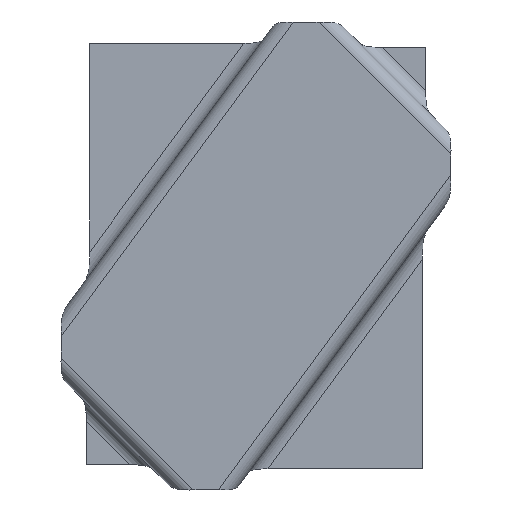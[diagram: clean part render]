
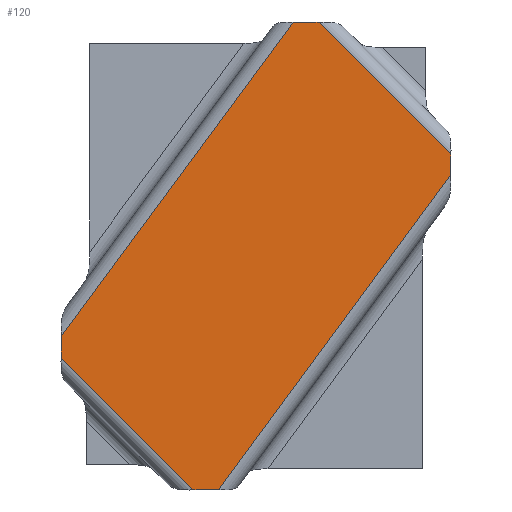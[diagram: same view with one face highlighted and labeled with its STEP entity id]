
A CAD part, top view. The second image highlights one B-rep face of the part: STEP entity #120.
In plain terms, the highlighted planar face has unit normal (0, 0, -1).
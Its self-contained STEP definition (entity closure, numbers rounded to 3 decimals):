
#53=CARTESIAN_POINT('Axis2P3D Location',(-51.842,38.23,64.914)) ;
#59=CARTESIAN_POINT('Control Point',(-51.842,77.498,64.914)) ;
#60=CARTESIAN_POINT('Control Point',(7.694,158.23,64.914)) ;
#61=CARTESIAN_POINT('Vertex',(-51.842,77.498,64.914)) ;
#63=CARTESIAN_POINT('Vertex',(7.694,158.23,64.914)) ;
#66=CARTESIAN_POINT('Line Origine',(-1.842,158.23,64.914)) ;
#70=CARTESIAN_POINT('Vertex',(14.332,158.23,64.914)) ;
#74=CARTESIAN_POINT('Control Point',(14.332,158.23,64.914)) ;
#75=CARTESIAN_POINT('Control Point',(48.158,124.405,64.914)) ;
#76=CARTESIAN_POINT('Vertex',(48.158,124.405,64.914)) ;
#79=CARTESIAN_POINT('Line Origine',(48.158,98.23,64.914)) ;
#83=CARTESIAN_POINT('Vertex',(48.158,119.044,64.914)) ;
#87=CARTESIAN_POINT('Control Point',(48.158,119.044,64.914)) ;
#88=CARTESIAN_POINT('Control Point',(-11.437,38.23,64.914)) ;
#89=CARTESIAN_POINT('Vertex',(-11.437,38.23,64.914)) ;
#92=CARTESIAN_POINT('Line Origine',(-1.842,38.23,64.914)) ;
#96=CARTESIAN_POINT('Vertex',(-18.016,38.23,64.914)) ;
#100=CARTESIAN_POINT('Control Point',(-51.842,72.056,64.914)) ;
#101=CARTESIAN_POINT('Control Point',(-18.016,38.23,64.914)) ;
#102=CARTESIAN_POINT('Vertex',(-51.842,72.056,64.914)) ;
#105=CARTESIAN_POINT('Line Origine',(-51.842,98.23,64.914)) ;
#54=DIRECTION('Axis2P3D Direction',(0.,0.,1.)) ;
#55=DIRECTION('Axis2P3D XDirection',(1.,0.,0.)) ;
#67=DIRECTION('Vector Direction',(1.,0.,0.)) ;
#80=DIRECTION('Vector Direction',(0.,1.,0.)) ;
#93=DIRECTION('Vector Direction',(1.,0.,0.)) ;
#106=DIRECTION('Vector Direction',(0.,1.,0.)) ;
#56=AXIS2_PLACEMENT_3D('Plane Axis2P3D',#53,#54,#55) ;
#111=ORIENTED_EDGE('',*,*,#65,.T.) ;
#112=ORIENTED_EDGE('',*,*,#72,.T.) ;
#113=ORIENTED_EDGE('',*,*,#78,.T.) ;
#114=ORIENTED_EDGE('',*,*,#85,.T.) ;
#115=ORIENTED_EDGE('',*,*,#91,.T.) ;
#116=ORIENTED_EDGE('',*,*,#98,.T.) ;
#117=ORIENTED_EDGE('',*,*,#104,.F.) ;
#118=ORIENTED_EDGE('',*,*,#109,.T.) ;
#68=VECTOR('Line Direction',#67,1.) ;
#81=VECTOR('Line Direction',#80,1.) ;
#94=VECTOR('Line Direction',#93,1.) ;
#107=VECTOR('Line Direction',#106,1.) ;
#120=ADVANCED_FACE('Offset.1',(#119),#57,.F.) ;
#58=B_SPLINE_CURVE_WITH_KNOTS('',1,(#59,#60),.UNSPECIFIED.,.F.,.U.,(2,2),(-50.155,50.155),.UNSPECIFIED.) ;
#73=B_SPLINE_CURVE_WITH_KNOTS('',1,(#74,#75),.UNSPECIFIED.,.F.,.U.,(2,2),(-23.919,23.919),.UNSPECIFIED.) ;
#86=B_SPLINE_CURVE_WITH_KNOTS('',1,(#87,#88),.UNSPECIFIED.,.F.,.U.,(2,2),(-50.206,50.206),.UNSPECIFIED.) ;
#99=B_SPLINE_CURVE_WITH_KNOTS('',1,(#100,#101),.UNSPECIFIED.,.F.,.U.,(2,2),(-23.919,23.919),.UNSPECIFIED.) ;
#65=EDGE_CURVE('',#62,#64,#58,.T.) ;
#72=EDGE_CURVE('',#64,#71,#69,.T.) ;
#78=EDGE_CURVE('',#71,#77,#73,.T.) ;
#85=EDGE_CURVE('',#77,#84,#82,.F.) ;
#91=EDGE_CURVE('',#84,#90,#86,.T.) ;
#98=EDGE_CURVE('',#90,#97,#95,.F.) ;
#104=EDGE_CURVE('',#103,#97,#99,.T.) ;
#109=EDGE_CURVE('',#103,#62,#108,.T.) ;
#110=EDGE_LOOP('',(#111,#112,#113,#114,#115,#116,#117,#118)) ;
#119=FACE_OUTER_BOUND('',#110,.T.) ;
#69=LINE('Line',#66,#68) ;
#82=LINE('Line',#79,#81) ;
#95=LINE('Line',#92,#94) ;
#108=LINE('Line',#105,#107) ;
#57=PLANE('',#56) ;
#62=VERTEX_POINT('',#61) ;
#64=VERTEX_POINT('',#63) ;
#71=VERTEX_POINT('',#70) ;
#77=VERTEX_POINT('',#76) ;
#84=VERTEX_POINT('',#83) ;
#90=VERTEX_POINT('',#89) ;
#97=VERTEX_POINT('',#96) ;
#103=VERTEX_POINT('',#102) ;
